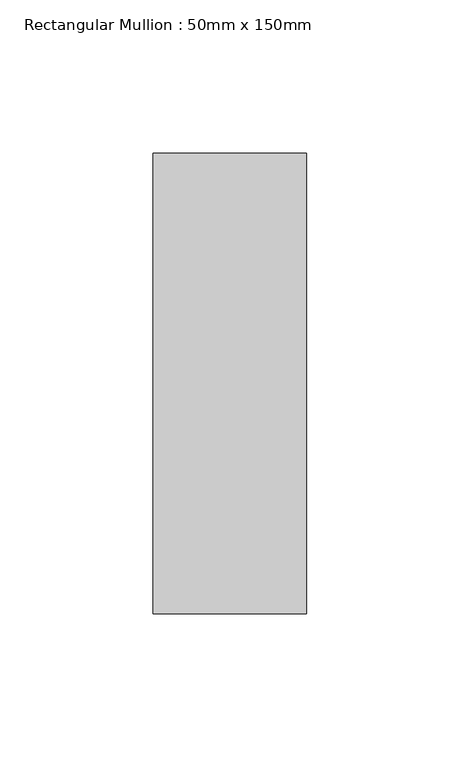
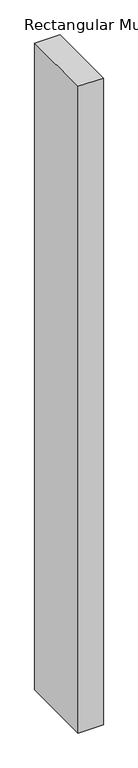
"""IFC4 building model written with IfcOpenShell, lengths in millimetres: member geometry, Rectangular Mullion : 50mm x 150mm."""

from ifc_helpers import new_model, si_unit, frame, origin, place, context, project, spatial, polyline, outline, extrude, source, transform, mapped, element, save


def rectangular_mullion_50mm_x_150mm_84717ec5(model_context):
    return source(origin(), model_context, "Body", "SweptSolid", [
        extrude(outline(polyline([(25.0, 75.0), (25.0, -75.0), (-25.0, -75.0), (-25.0, 75.0), (25.0, 75.0)])), frame((0.0, 0.0, -1360.0), z_axis=(0.0, 0.0, 1.0), x_axis=(1.0, 0.0, 0.0)), (0.0, 0.0, 1.0), 1360.0),
    ])


if __name__ == "__main__":
    model = new_model("IFC4")
    model_context = context("Model", 3, world=origin())
    ifc_project = project(units=[si_unit("LENGTHUNIT", "METRE", prefix="MILLI")], contexts=[model_context])
    site = spatial("IfcSite", under=ifc_project)
    building = spatial("IfcBuilding", under=site)
    placement = place(None, origin())
    rectangular_mullion_50mm_x_150mm_shape = rectangular_mullion_50mm_x_150mm_84717ec5(model_context)
    element("IfcMember", 1, ObjectType="Rectangular Mullion : 50mm x 150mm", at=placement, inside=building, context=model_context, shape_type="MappedRepresentation", body=[
        mapped(rectangular_mullion_50mm_x_150mm_shape, transform((0.0, 0.0, 0.0), x_axis=(1.0, 0.0, 0.0), y_axis=(0.0, 1.0, 0.0), z_axis=(0.0, 0.0, 1.0))),
    ])
    save(model, "model.ifc")
